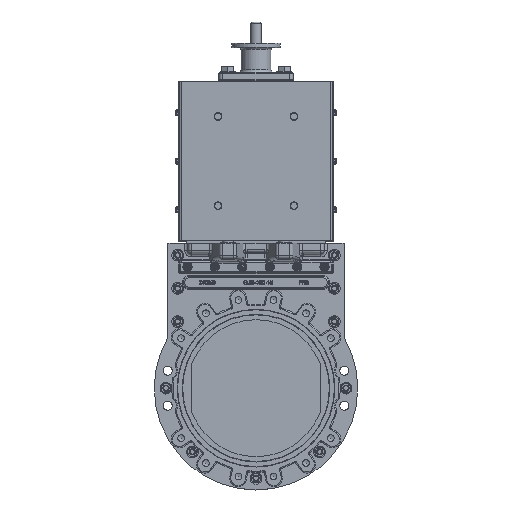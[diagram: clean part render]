
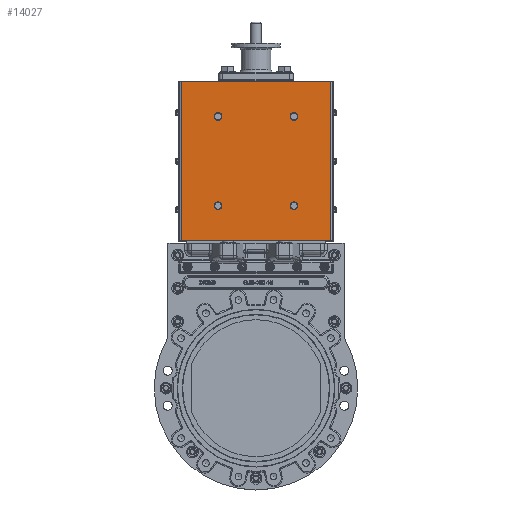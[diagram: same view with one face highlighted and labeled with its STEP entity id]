
A CAD part, top view. The second image highlights one B-rep face of the part: STEP entity #14027.
In plain terms, the highlighted planar face has unit normal (0, 0, 1).
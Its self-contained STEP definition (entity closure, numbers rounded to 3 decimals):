
#3090=CIRCLE('',#48541,10.);
#3091=CIRCLE('',#48542,10.);
#3092=CIRCLE('',#48543,10.);
#3093=CIRCLE('',#48544,10.);
#4613=PLANE('',#48545);
#9053=LINE('',#84299,#11543);
#9055=LINE('',#84307,#11545);
#9071=LINE('',#84419,#11561);
#9072=LINE('',#84425,#11562);
#11543=VECTOR('',#58780,1.);
#11545=VECTOR('',#58790,1.);
#11561=VECTOR('',#58916,1.);
#11562=VECTOR('',#58923,1.);
#14027=ADVANCED_FACE('',(#40001,#40002,#40003,#40004,#40005),#4613,.F.);
#17963=EDGE_LOOP('',(#29157));
#17964=EDGE_LOOP('',(#29158));
#17965=EDGE_LOOP('',(#29159,#29160,#29161,#29162));
#17966=EDGE_LOOP('',(#29163));
#17967=EDGE_LOOP('',(#29164));
#29157=ORIENTED_EDGE('',*,*,#36246,.F.);
#29158=ORIENTED_EDGE('',*,*,#36247,.F.);
#29159=ORIENTED_EDGE('',*,*,#36190,.T.);
#29160=ORIENTED_EDGE('',*,*,#36245,.F.);
#29161=ORIENTED_EDGE('',*,*,#36194,.F.);
#29162=ORIENTED_EDGE('',*,*,#36248,.F.);
#29163=ORIENTED_EDGE('',*,*,#36249,.T.);
#29164=ORIENTED_EDGE('',*,*,#36250,.T.);
#36190=EDGE_CURVE('',#44355,#44354,#9053,.T.);
#36194=EDGE_CURVE('',#44357,#44358,#9055,.T.);
#36245=EDGE_CURVE('',#44358,#44354,#9071,.T.);
#36246=EDGE_CURVE('',#44398,#44398,#3090,.T.);
#36247=EDGE_CURVE('',#44399,#44399,#3091,.T.);
#36248=EDGE_CURVE('',#44355,#44357,#9072,.T.);
#36249=EDGE_CURVE('',#44400,#44400,#3092,.T.);
#36250=EDGE_CURVE('',#44401,#44401,#3093,.T.);
#40001=FACE_BOUND('',#17963,.T.);
#40002=FACE_BOUND('',#17964,.T.);
#40003=FACE_BOUND('',#17965,.T.);
#40004=FACE_BOUND('',#17966,.T.);
#40005=FACE_BOUND('',#17967,.T.);
#44354=VERTEX_POINT('',#84298);
#44355=VERTEX_POINT('',#84300);
#44357=VERTEX_POINT('',#84308);
#44358=VERTEX_POINT('',#84309);
#44398=VERTEX_POINT('',#84422);
#44399=VERTEX_POINT('',#84424);
#44400=VERTEX_POINT('',#84427);
#44401=VERTEX_POINT('',#84429);
#48541=AXIS2_PLACEMENT_3D('',#84421,#58919,#58920);
#48542=AXIS2_PLACEMENT_3D('',#84423,#58921,#58922);
#48543=AXIS2_PLACEMENT_3D('',#84426,#58924,#58925);
#48544=AXIS2_PLACEMENT_3D('',#84428,#58926,#58927);
#48545=AXIS2_PLACEMENT_3D('',#84430,#58928,#58929);
#58780=DIRECTION('',(-1.,0.,0.));
#58790=DIRECTION('',(-1.,0.,0.));
#58916=DIRECTION('',(0.,1.,0.));
#58919=DIRECTION('',(0.,0.,1.));
#58920=DIRECTION('',(1.,0.,0.));
#58921=DIRECTION('',(0.,0.,1.));
#58922=DIRECTION('',(1.,0.,0.));
#58923=DIRECTION('',(0.,-1.,0.));
#58924=DIRECTION('',(0.,0.,-1.));
#58925=DIRECTION('',(-1.,0.,0.));
#58926=DIRECTION('',(0.,0.,-1.));
#58927=DIRECTION('',(-1.,0.,0.));
#58928=DIRECTION('',(0.,0.,-1.));
#58929=DIRECTION('',(1.,0.,0.));
#84298=CARTESIAN_POINT('',(-191.25,784.,92.));
#84299=CARTESIAN_POINT('',(197.5,784.,92.));
#84300=CARTESIAN_POINT('',(191.25,784.,92.));
#84307=CARTESIAN_POINT('',(197.5,376.,92.));
#84308=CARTESIAN_POINT('',(191.25,376.,92.));
#84309=CARTESIAN_POINT('',(-191.25,376.,92.));
#84419=CARTESIAN_POINT('',(-191.25,784.,92.));
#84421=CARTESIAN_POINT('',(97.,466.,92.));
#84422=CARTESIAN_POINT('',(107.,466.,92.));
#84423=CARTESIAN_POINT('',(97.,694.,92.));
#84424=CARTESIAN_POINT('',(107.,694.,92.));
#84425=CARTESIAN_POINT('',(191.25,376.,92.));
#84426=CARTESIAN_POINT('',(-97.,694.,92.));
#84427=CARTESIAN_POINT('',(-107.,694.,92.));
#84428=CARTESIAN_POINT('',(-97.,466.,92.));
#84429=CARTESIAN_POINT('',(-107.,466.,92.));
#84430=CARTESIAN_POINT('',(197.5,784.,92.));
